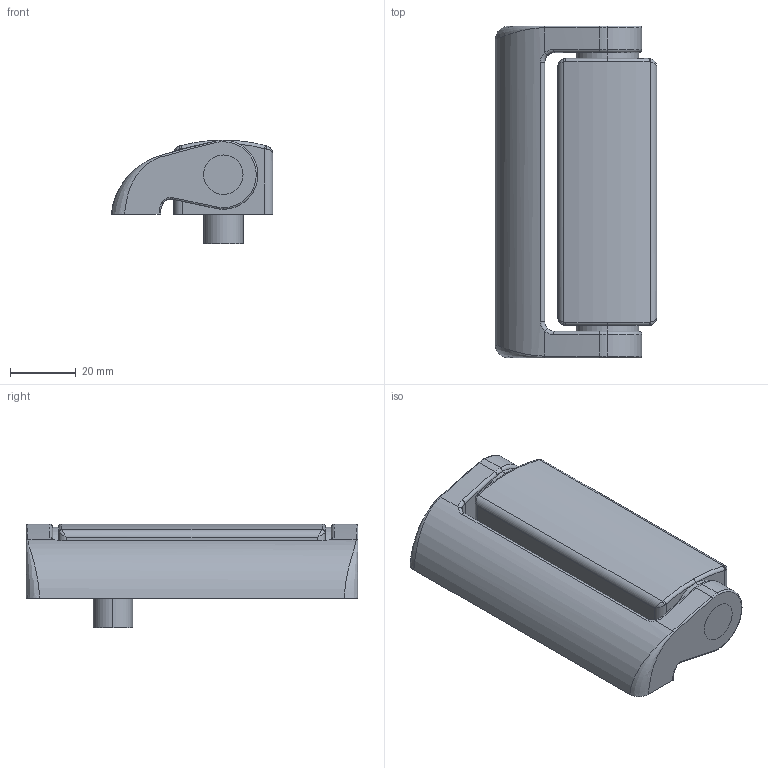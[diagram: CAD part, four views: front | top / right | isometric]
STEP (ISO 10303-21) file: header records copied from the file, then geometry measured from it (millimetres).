
FILE_DESCRIPTION (( 'STEP AP214' ), '1' );
FILE_NAME ('ZF_STEP_HP_AA0xxx-xPx_A15.step', '2018-06-29T06:28:21', ( 'Pizzato Elettrica' ), ( 'Microsoft' ), 'SwSTEP 2.0', 'SolidWorks 2014', '' );
FILE_SCHEMA (( 'AUTOMOTIVE_DESIGN' ));
Length unit declared in the file: millimetre
Products named in the file (3): Pizzato_Parte_Mobile_Hx_AA_Parte_mobile; Pizzato_Parte_Fissa_Hx_AA_Hx_AAxxx-xPx_no logo; ZF_STEP_HP_AA0xxx-xPx_A15
Assembly tree (2 placements, depth 2):
  ZF_STEP_HP_AA0xxx-xPx_A15
    Pizzato_Parte_Fissa_Hx_AA_Hx_AAxxx-xPx_no logo
    Pizzato_Parte_Mobile_Hx_AA_Parte_mobile
Bounding box: 49 x 100.6 x 31.5 mm (x, y, z)
Volume: 80957.2 mm3; surface area: 20079.1 mm2
Topology: 2 solids, 2 shells, 143 faces, 338 edges, 189 vertices
Faces by surface type: cylinder 61, torus 30, bspline 20, plane 18, cone 14
Entity records: 4995 total; most frequent: CARTESIAN_POINT 1629, DIRECTION 700, ORIENTED_EDGE 636, EDGE_CURVE 318, AXIS2_PLACEMENT_3D 300, VERTEX_POINT 189, CIRCLE 172, EDGE_LOOP 157
